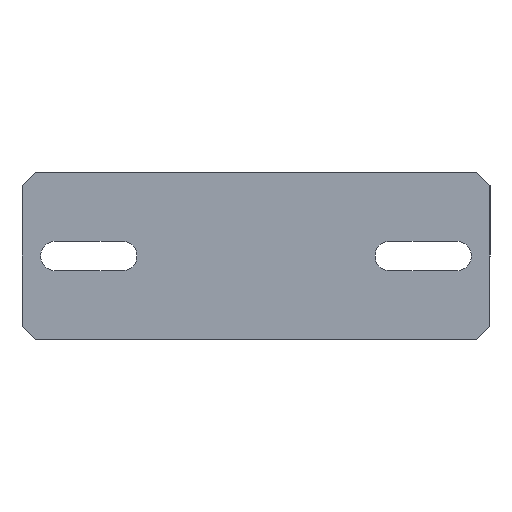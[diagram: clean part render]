
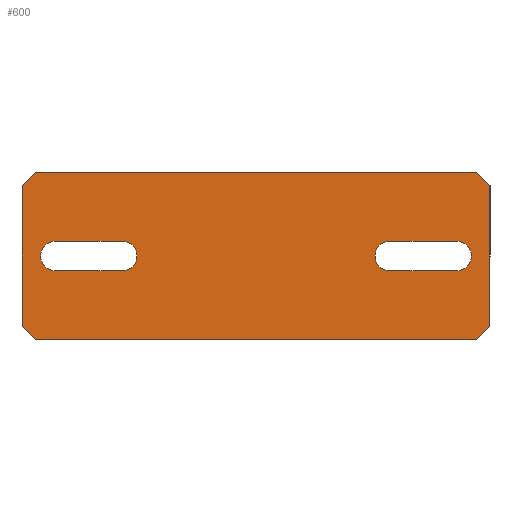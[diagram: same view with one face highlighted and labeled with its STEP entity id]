
A CAD part, front view. The second image highlights one B-rep face of the part: STEP entity #600.
In plain terms, the highlighted planar face has unit normal (0, -1, 0) as drawn and (0, 0, -1) by its records, which use the part's own axes.
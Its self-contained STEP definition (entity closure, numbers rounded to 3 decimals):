
#2 = LINE ( 'NONE', #1029, #39 ) ;
#6 = VECTOR ( 'NONE', #1420, 1000. ) ;
#19 = LINE ( 'NONE', #145, #31 ) ;
#26 = LINE ( 'NONE', #1134, #6 ) ;
#31 = VECTOR ( 'NONE', #143, 1000. ) ;
#37 = CIRCLE ( 'NONE', #1832, 2.2 ) ;
#39 = VECTOR ( 'NONE', #1092, 1000. ) ;
#44 = ORIENTED_EDGE ( 'NONE', *, *, #1630, .T. ) ;
#45 = ORIENTED_EDGE ( 'NONE', *, *, #1804, .F. ) ;
#46 = ORIENTED_EDGE ( 'NONE', *, *, #1799, .T. ) ;
#47 = ORIENTED_EDGE ( 'NONE', *, *, #1676, .T. ) ;
#48 = ORIENTED_EDGE ( 'NONE', *, *, #1842, .F. ) ;
#51 = ORIENTED_EDGE ( 'NONE', *, *, #1680, .T. ) ;
#53 = ORIENTED_EDGE ( 'NONE', *, *, #1537, .T. ) ;
#54 = ORIENTED_EDGE ( 'NONE', *, *, #1763, .F. ) ;
#57 = ORIENTED_EDGE ( 'NONE', *, *, #1735, .T. ) ;
#58 = ORIENTED_EDGE ( 'NONE', *, *, #1674, .T. ) ;
#62 = ORIENTED_EDGE ( 'NONE', *, *, #1686, .T. ) ;
#74 = ORIENTED_EDGE ( 'NONE', *, *, #1604, .T. ) ;
#75 = ORIENTED_EDGE ( 'NONE', *, *, #1805, .T. ) ;
#143 = DIRECTION ( 'NONE',  ( 1., 0., 0. ) ) ;
#145 = CARTESIAN_POINT ( 'NONE',  ( -35., -12.5, -3. ) ) ;
#218 = FACE_BOUND ( 'NONE', #2127, .T. ) ;
#223 = FACE_OUTER_BOUND ( 'NONE', #305, .T. ) ;
#297 = FACE_BOUND ( 'NONE', #299, .T. ) ;
#299 = EDGE_LOOP ( 'NONE', ( #46, #53, #44, #62, #51 ) ) ;
#305 = EDGE_LOOP ( 'NONE', ( #2141, #47, #48, #75, #45, #58, #54, #57 ) ) ;
#312 = CIRCLE ( 'NONE', #1775, 2.2 ) ;
#313 = LINE ( 'NONE', #853, #339 ) ;
#318 = LINE ( 'NONE', #922, #326 ) ;
#326 = VECTOR ( 'NONE', #773, 1000. ) ;
#339 = VECTOR ( 'NONE', #1169, 1000. ) ;
#364 = ORIENTED_EDGE ( 'NONE', *, *, #1779, .T. ) ;
#385 = ORIENTED_EDGE ( 'NONE', *, *, #1767, .T. ) ;
#600 = ADVANCED_FACE ( 'NONE', ( #218, #223, #297 ), #1085, .F. ) ;
#718 = VERTEX_POINT ( 'NONE', #1343 ) ;
#753 = VERTEX_POINT ( 'NONE', #1327 ) ;
#763 = VERTEX_POINT ( 'NONE', #1331 ) ;
#768 = VERTEX_POINT ( 'NONE', #1330 ) ;
#773 = DIRECTION ( 'NONE',  ( -1., 0., 0. ) ) ;
#790 = VERTEX_POINT ( 'NONE', #1312 ) ;
#799 = VERTEX_POINT ( 'NONE', #1315 ) ;
#802 = DIRECTION ( 'NONE',  ( 0., 0., 1. ) ) ;
#803 = DIRECTION ( 'NONE',  ( 0., 0., 1. ) ) ;
#812 = DIRECTION ( 'NONE',  ( -1., 0., 0. ) ) ;
#815 = CARTESIAN_POINT ( 'NONE',  ( 30., 2.2, -3. ) ) ;
#853 = CARTESIAN_POINT ( 'NONE',  ( -20., -2.2, -3. ) ) ;
#880 = CARTESIAN_POINT ( 'NONE',  ( -35., 10.5, -3. ) ) ;
#890 = CARTESIAN_POINT ( 'NONE',  ( -20., -2.2, -3. ) ) ;
#899 = DIRECTION ( 'NONE',  ( 0., 0., 1. ) ) ;
#909 = CARTESIAN_POINT ( 'NONE',  ( -33., -12.5, -3. ) ) ;
#911 = CARTESIAN_POINT ( 'NONE',  ( -30., 2.2, -3. ) ) ;
#922 = CARTESIAN_POINT ( 'NONE',  ( -35., 12.5, -3. ) ) ;
#926 = VERTEX_POINT ( 'NONE', #1297 ) ;
#927 = DIRECTION ( 'NONE',  ( 0.707, 0.707, 0. ) ) ;
#940 = DIRECTION ( 'NONE',  ( 0.707, -0.707, 0. ) ) ;
#951 = CARTESIAN_POINT ( 'NONE',  ( 20., 2.2, -3. ) ) ;
#976 = VERTEX_POINT ( 'NONE', #1357 ) ;
#977 = VERTEX_POINT ( 'NONE', #1354 ) ;
#978 = CARTESIAN_POINT ( 'NONE',  ( -35., -12.5, -3. ) ) ;
#989 = VERTEX_POINT ( 'NONE', #1356 ) ;
#997 = DIRECTION ( 'NONE',  ( -1., 0., 0. ) ) ;
#998 = VERTEX_POINT ( 'NONE', #1355 ) ;
#999 = CARTESIAN_POINT ( 'NONE',  ( -20., 0., -3. ) ) ;
#1014 = DIRECTION ( 'NONE',  ( 0., 0., 1. ) ) ;
#1029 = CARTESIAN_POINT ( 'NONE',  ( -33., -12.5, -3. ) ) ;
#1085 = PLANE ( 'NONE',  #1652 ) ;
#1092 = DIRECTION ( 'NONE',  ( -0.707, 0.707, 0. ) ) ;
#1111 = VERTEX_POINT ( 'NONE', #951 ) ;
#1115 = CARTESIAN_POINT ( 'NONE',  ( 35., 12.5, -3. ) ) ;
#1118 = VERTEX_POINT ( 'NONE', #1429 ) ;
#1120 = CARTESIAN_POINT ( 'NONE',  ( 20., 0., -3. ) ) ;
#1122 = VERTEX_POINT ( 'NONE', #1437 ) ;
#1134 = CARTESIAN_POINT ( 'NONE',  ( -35., 12.5, -3. ) ) ;
#1135 = VERTEX_POINT ( 'NONE', #909 ) ;
#1149 = CARTESIAN_POINT ( 'NONE',  ( 20., 0., -3. ) ) ;
#1154 = CARTESIAN_POINT ( 'NONE',  ( -30., 0., -3. ) ) ;
#1162 = CARTESIAN_POINT ( 'NONE',  ( -30., 0., -3. ) ) ;
#1169 = DIRECTION ( 'NONE',  ( 1., 0., 0. ) ) ;
#1172 = DIRECTION ( 'NONE',  ( 0., 0., 1. ) ) ;
#1173 = DIRECTION ( 'NONE',  ( 1., 0., 0. ) ) ;
#1186 = DIRECTION ( 'NONE',  ( 1., 0., 0. ) ) ;
#1253 = VERTEX_POINT ( 'NONE', #1494 ) ;
#1276 = DIRECTION ( 'NONE',  ( 0., 0., 1. ) ) ;
#1282 = DIRECTION ( 'NONE',  ( 1., 0., 0. ) ) ;
#1297 = CARTESIAN_POINT ( 'NONE',  ( -30., -2.2, -3. ) ) ;
#1312 = CARTESIAN_POINT ( 'NONE',  ( 35., 10.5, -3. ) ) ;
#1315 = CARTESIAN_POINT ( 'NONE',  ( 33., 12.5, -3. ) ) ;
#1327 = CARTESIAN_POINT ( 'NONE',  ( 30., 2.2, -3. ) ) ;
#1330 = CARTESIAN_POINT ( 'NONE',  ( -33., 12.5, -3. ) ) ;
#1331 = CARTESIAN_POINT ( 'NONE',  ( -35., -10.5, -3. ) ) ;
#1343 = CARTESIAN_POINT ( 'NONE',  ( 17.8, 0., -3. ) ) ;
#1354 = CARTESIAN_POINT ( 'NONE',  ( -20., 2.2, -3. ) ) ;
#1355 = CARTESIAN_POINT ( 'NONE',  ( 33., -12.5, -3. ) ) ;
#1356 = CARTESIAN_POINT ( 'NONE',  ( 30., -2.2, -3. ) ) ;
#1357 = CARTESIAN_POINT ( 'NONE',  ( -30., 2.2, -3. ) ) ;
#1358 = CARTESIAN_POINT ( 'NONE',  ( 30., 0., -3. ) ) ;
#1363 = DIRECTION ( 'NONE',  ( 0., 0., 1. ) ) ;
#1371 = VERTEX_POINT ( 'NONE', #880 ) ;
#1383 = DIRECTION ( 'NONE',  ( -0.707, -0.707, 0. ) ) ;
#1412 = CARTESIAN_POINT ( 'NONE',  ( 35., -10.5, -3. ) ) ;
#1420 = DIRECTION ( 'NONE',  ( 0., -1., 0. ) ) ;
#1423 = CARTESIAN_POINT ( 'NONE',  ( 33., 12.5, -3. ) ) ;
#1429 = CARTESIAN_POINT ( 'NONE',  ( -32.2, 0., -3. ) ) ;
#1437 = CARTESIAN_POINT ( 'NONE',  ( 35., -10.5, -3. ) ) ;
#1453 = CARTESIAN_POINT ( 'NONE',  ( 20., -2.2, -3. ) ) ;
#1459 = DIRECTION ( 'NONE',  ( 1., 0., 0. ) ) ;
#1465 = DIRECTION ( 'NONE',  ( 1., 0., 0. ) ) ;
#1468 = DIRECTION ( 'NONE',  ( -1., 0., 0. ) ) ;
#1471 = CARTESIAN_POINT ( 'NONE',  ( -35., 10.5, -3. ) ) ;
#1476 = VERTEX_POINT ( 'NONE', #890 ) ;
#1484 = DIRECTION ( 'NONE',  ( -1., 0., 0. ) ) ;
#1494 = CARTESIAN_POINT ( 'NONE',  ( 20., -2.2, -3. ) ) ;
#1496 = DIRECTION ( 'NONE',  ( 0., 1., 0. ) ) ;
#1510 = DIRECTION ( 'NONE',  ( -1., 0., 0. ) ) ;
#1537 = EDGE_CURVE ( 'NONE', #753, #1111, #2004, .T. ) ;
#1567 = AXIS2_PLACEMENT_3D ( 'NONE', #1149, #802, #1186 ) ;
#1602 = AXIS2_PLACEMENT_3D ( 'NONE', #999, #1014, #997 ) ;
#1604 = EDGE_CURVE ( 'NONE', #977, #976, #1933, .T. ) ;
#1608 = EDGE_CURVE ( 'NONE', #1476, #977, #1893, .T. ) ;
#1630 = EDGE_CURVE ( 'NONE', #1111, #718, #2098, .T. ) ;
#1634 = EDGE_CURVE ( 'NONE', #1122, #790, #2096, .T. ) ;
#1643 = EDGE_CURVE ( 'NONE', #976, #1118, #1962, .T. ) ;
#1652 = AXIS2_PLACEMENT_3D ( 'NONE', #978, #1276, #1282 ) ;
#1662 = AXIS2_PLACEMENT_3D ( 'NONE', #1120, #803, #1465 ) ;
#1674 = EDGE_CURVE ( 'NONE', #1371, #768, #2080, .T. ) ;
#1676 = EDGE_CURVE ( 'NONE', #1122, #998, #2058, .T. ) ;
#1680 = EDGE_CURVE ( 'NONE', #1253, #989, #1904, .T. ) ;
#1686 = EDGE_CURVE ( 'NONE', #718, #1253, #1977, .T. ) ;
#1735 = EDGE_CURVE ( 'NONE', #799, #790, #1975, .T. ) ;
#1763 = EDGE_CURVE ( 'NONE', #799, #768, #318, .T. ) ;
#1767 = EDGE_CURVE ( 'NONE', #1118, #926, #312, .T. ) ;
#1775 = AXIS2_PLACEMENT_3D ( 'NONE', #1154, #1172, #1484 ) ;
#1779 = EDGE_CURVE ( 'NONE', #926, #1476, #313, .T. ) ;
#1797 = AXIS2_PLACEMENT_3D ( 'NONE', #1162, #899, #1468 ) ;
#1799 = EDGE_CURVE ( 'NONE', #989, #753, #37, .T. ) ;
#1804 = EDGE_CURVE ( 'NONE', #1371, #763, #26, .T. ) ;
#1805 = EDGE_CURVE ( 'NONE', #1135, #763, #2, .T. ) ;
#1832 = AXIS2_PLACEMENT_3D ( 'NONE', #1358, #1363, #1173 ) ;
#1842 = EDGE_CURVE ( 'NONE', #1135, #998, #19, .T. ) ;
#1884 = VECTOR ( 'NONE', #927, 1000. ) ;
#1885 = VECTOR ( 'NONE', #1459, 1000. ) ;
#1886 = VECTOR ( 'NONE', #812, 1000. ) ;
#1893 = CIRCLE ( 'NONE', #1602, 2.2 ) ;
#1904 = LINE ( 'NONE', #1453, #1885 ) ;
#1933 = LINE ( 'NONE', #911, #2062 ) ;
#1962 = CIRCLE ( 'NONE', #1797, 2.2 ) ;
#1975 = LINE ( 'NONE', #1423, #2070 ) ;
#1977 = CIRCLE ( 'NONE', #1567, 2.2 ) ;
#2004 = LINE ( 'NONE', #815, #1886 ) ;
#2032 = VECTOR ( 'NONE', #1496, 1000. ) ;
#2058 = LINE ( 'NONE', #1412, #2086 ) ;
#2062 = VECTOR ( 'NONE', #1510, 1000. ) ;
#2070 = VECTOR ( 'NONE', #940, 1000. ) ;
#2080 = LINE ( 'NONE', #1471, #1884 ) ;
#2086 = VECTOR ( 'NONE', #1383, 1000. ) ;
#2096 = LINE ( 'NONE', #1115, #2032 ) ;
#2098 = CIRCLE ( 'NONE', #1662, 2.2 ) ;
#2117 = ORIENTED_EDGE ( 'NONE', *, *, #1608, .T. ) ;
#2127 = EDGE_LOOP ( 'NONE', ( #2143, #385, #364, #2117, #74 ) ) ;
#2141 = ORIENTED_EDGE ( 'NONE', *, *, #1634, .F. ) ;
#2143 = ORIENTED_EDGE ( 'NONE', *, *, #1643, .T. ) ;
